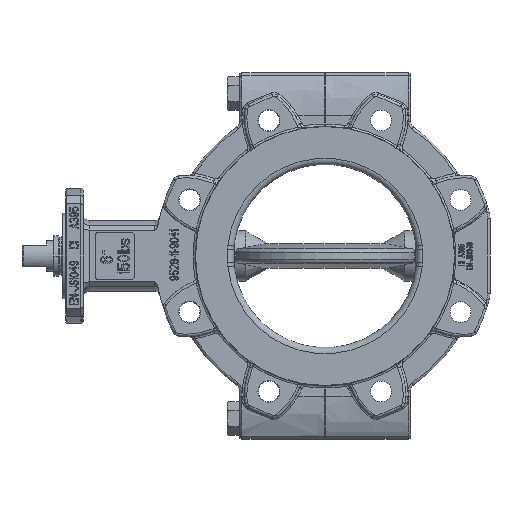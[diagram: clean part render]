
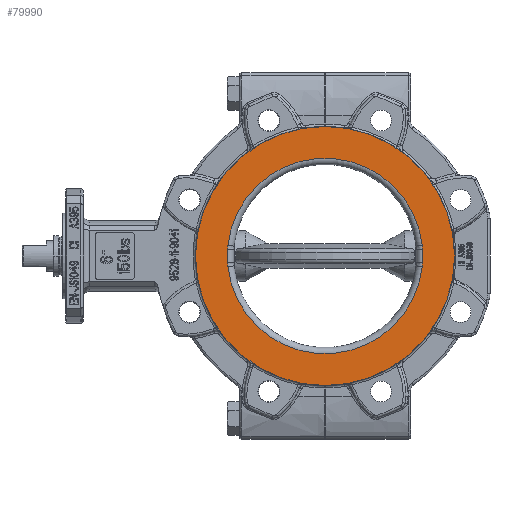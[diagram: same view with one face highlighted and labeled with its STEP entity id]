
A CAD part, left-side view. The second image highlights one B-rep face of the part: STEP entity #79990.
In plain terms, the highlighted planar face has unit normal (-1, 0, 0).
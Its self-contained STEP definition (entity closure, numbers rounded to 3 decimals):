
#193=CARTESIAN_POINT('',(-28.,0.,0.));
#194=DIRECTION('',(1.,0.,0.));
#195=DIRECTION('',(0.,0.,-1.));
#196=AXIS2_PLACEMENT_3D('',#193,#194,#195);
#2658=CARTESIAN_POINT('',(-28.,0.,0.));
#2659=DIRECTION('',(-1.,0.,0.));
#2660=DIRECTION('',(0.,0.,-1.));
#2661=AXIS2_PLACEMENT_3D('',#2658,#2659,#2660);
#18394=CARTESIAN_POINT('',(-28.,79.536,
-8.604));
#18395=CARTESIAN_POINT('',(-28.,79.573,
-8.262));
#18396=CARTESIAN_POINT('',(-28.,79.634,
-7.564));
#18397=CARTESIAN_POINT('',(-28.,79.689,
-6.472));
#18398=CARTESIAN_POINT('',(-28.,79.7,
-5.716));
#18399=CARTESIAN_POINT('',(-28.,79.7,
-5.331));
#18413=CARTESIAN_POINT('',(-28.,0.,0.));
#18414=DIRECTION('',(1.,0.,0.));
#18415=DIRECTION('',(0.,-0.994,-0.108));
#18416=AXIS2_PLACEMENT_3D('',#18413,#18414,#18415);
#18423=CARTESIAN_POINT('',(-28.,-79.536,
-8.604));
#18424=CARTESIAN_POINT('',(-28.,-79.573,
-8.262));
#18425=CARTESIAN_POINT('',(-28.,-79.634,
-7.564));
#18426=CARTESIAN_POINT('',(-28.,-79.689,
-6.472));
#18427=CARTESIAN_POINT('',(-28.,-79.7,
-5.716));
#18428=CARTESIAN_POINT('',(-28.,-79.7,
-5.331));
#19250=DIRECTION('',(0.,0.,1.));
#19251=VECTOR('',#19250,10.662);
#19252=CARTESIAN_POINT('',(-28.,79.7,
-5.331));
#19253=LINE('',#19252,#19251);
#19263=CARTESIAN_POINT('',(-28.,79.7,
5.331));
#19264=CARTESIAN_POINT('',(-28.,79.7,
5.717));
#19265=CARTESIAN_POINT('',(-28.,79.688,
6.475));
#19266=CARTESIAN_POINT('',(-28.,79.634,
7.567));
#19267=CARTESIAN_POINT('',(-28.,79.573,
8.263));
#19268=CARTESIAN_POINT('',(-28.,79.536,
8.604));
#19292=CARTESIAN_POINT('',(-28.,0.,0.));
#19293=DIRECTION('',(1.,0.,0.));
#19294=DIRECTION('',(0.,0.994,0.108));
#19295=AXIS2_PLACEMENT_3D('',#19292,#19293,#19294);
#19302=CARTESIAN_POINT('',(-28.,-79.7,
5.331));
#19303=CARTESIAN_POINT('',(-28.,-79.7,
5.717));
#19304=CARTESIAN_POINT('',(-28.,-79.688,
6.475));
#19305=CARTESIAN_POINT('',(-28.,-79.634,
7.567));
#19306=CARTESIAN_POINT('',(-28.,-79.573,
8.263));
#19307=CARTESIAN_POINT('',(-28.,-79.536,
8.604));
#19321=DIRECTION('',(0.,0.,1.));
#19322=VECTOR('',#19321,10.662);
#19323=CARTESIAN_POINT('',(-28.,-79.7,
-5.331));
#19324=LINE('',#19323,#19322);
#51851=CARTESIAN_POINT('',(-28.,0.,-106.));
#51853=VERTEX_POINT('',#51851);
#51855=CARTESIAN_POINT('',(-28.,0.,106.));
#51857=VERTEX_POINT('',#51855);
#51859=VERTEX_POINT('',#18394);
#51860=VERTEX_POINT('',#18399);
#51863=CARTESIAN_POINT('',(-28.,79.7,
5.331));
#51864=VERTEX_POINT('',#51863);
#51867=VERTEX_POINT('',#19268);
#51879=VERTEX_POINT('',#18423);
#51880=VERTEX_POINT('',#18428);
#51883=CARTESIAN_POINT('',(-28.,-79.7,
5.331));
#51884=VERTEX_POINT('',#51883);
#51887=VERTEX_POINT('',#19307);
#79964=CARTESIAN_POINT('',(-28.,0.,0.));
#79965=DIRECTION('',(1.,0.,0.));
#79966=DIRECTION('',(0.,0.,-1.));
#79967=AXIS2_PLACEMENT_3D('',#79964,#79965,#79966);
#79968=PLANE('',#79967);
#79969=ORIENTED_EDGE('',*,*,#52723,.T.);
#79970=ORIENTED_EDGE('',*,*,#55805,.F.);
#79971=EDGE_LOOP('',(#79969,#79970));
#79972=FACE_OUTER_BOUND('',#79971,.F.);
#79974=ORIENTED_EDGE('',*,*,#79973,.F.);
#79976=ORIENTED_EDGE('',*,*,#79975,.T.);
#79978=ORIENTED_EDGE('',*,*,#79977,.T.);
#79980=ORIENTED_EDGE('',*,*,#79979,.T.);
#79982=ORIENTED_EDGE('',*,*,#79981,.F.);
#79984=ORIENTED_EDGE('',*,*,#79983,.F.);
#79986=ORIENTED_EDGE('',*,*,#79985,.F.);
#79987=ORIENTED_EDGE('',*,*,#79954,.F.);
#79988=EDGE_LOOP('',(#79974,#79976,#79978,#79980,#79982,#79984,#79986,#79987));
#79989=FACE_BOUND('',#79988,.F.);
#79990=ADVANCED_FACE('',(#79972,#79989),#79968,.F.);
#197=CIRCLE('',#196,106.);
#2662=CIRCLE('',#2661,106.);
#18400=B_SPLINE_CURVE_WITH_KNOTS('',3,(#18394,#18395,#18396,#18397,#18398,
#18399),.UNSPECIFIED.,.F.,.F.,(4,1,1,4),(0.,0.333,
0.667,1.),.UNSPECIFIED.);
#18417=CIRCLE('',#18416,80.);
#18429=B_SPLINE_CURVE_WITH_KNOTS('',3,(#18423,#18424,#18425,#18426,#18427,
#18428),.UNSPECIFIED.,.F.,.F.,(4,1,1,4),(0.,0.333,
0.667,1.),.UNSPECIFIED.);
#19269=B_SPLINE_CURVE_WITH_KNOTS('',3,(#19263,#19264,#19265,#19266,#19267,
#19268),.UNSPECIFIED.,.F.,.F.,(4,1,1,4),(0.,0.333,
0.667,1.),.UNSPECIFIED.);
#19296=CIRCLE('',#19295,80.);
#19308=B_SPLINE_CURVE_WITH_KNOTS('',3,(#19302,#19303,#19304,#19305,#19306,
#19307),.UNSPECIFIED.,.F.,.F.,(4,1,1,4),(0.,0.333,
0.667,1.),.UNSPECIFIED.);
#52723=EDGE_CURVE('',#51853,#51857,#197,.T.);
#55805=EDGE_CURVE('',#51853,#51857,#2662,.T.);
#79954=EDGE_CURVE('',#51859,#51860,#18400,.T.);
#79973=EDGE_CURVE('',#51879,#51859,#18417,.T.);
#79975=EDGE_CURVE('',#51879,#51880,#18429,.T.);
#79977=EDGE_CURVE('',#51880,#51884,#19324,.T.);
#79979=EDGE_CURVE('',#51884,#51887,#19308,.T.);
#79981=EDGE_CURVE('',#51867,#51887,#19296,.T.);
#79983=EDGE_CURVE('',#51864,#51867,#19269,.T.);
#79985=EDGE_CURVE('',#51860,#51864,#19253,.T.);
